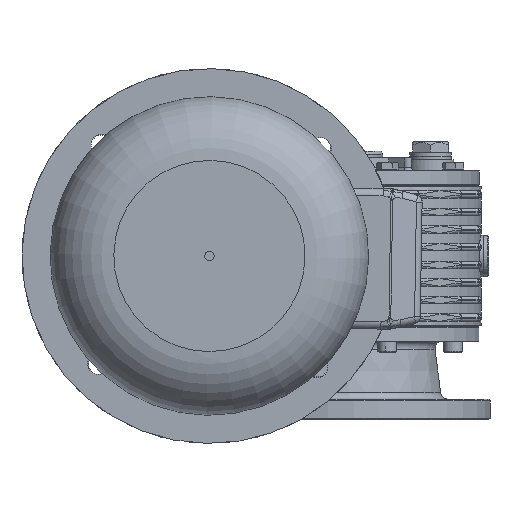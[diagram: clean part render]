
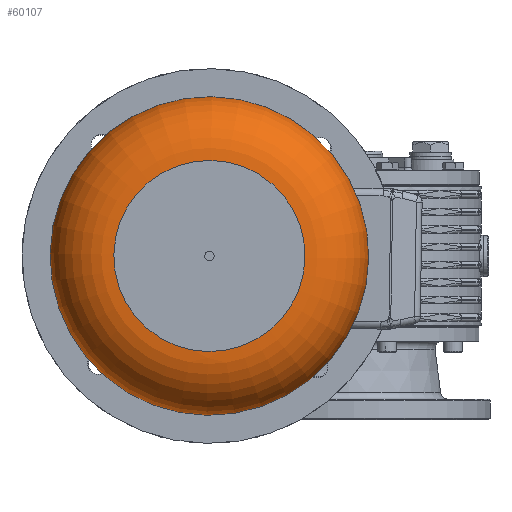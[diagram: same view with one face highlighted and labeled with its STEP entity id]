
A CAD part, left-side view. The second image highlights one B-rep face of the part: STEP entity #60107.
In plain terms, the highlighted toroidal (fillet/blend) face has major radius 51 mm and minor radius 34 mm.
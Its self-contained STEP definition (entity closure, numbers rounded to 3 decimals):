
#60080=CARTESIAN_POINT('',(346.0,0.0,0.0));
#60081=DIRECTION('',(1.0,0.0,0.0));
#60082=DIRECTION('',(0.0,0.0,-1.0));
#60083=AXIS2_PLACEMENT_3D('',#60080,#60081,#60082);
#60084=TOROIDAL_SURFACE('',#60083,51.,34.0);
#60085=CARTESIAN_POINT('',(380.0,51.,0.0));
#60086=VERTEX_POINT('',#60085);
#60087=CARTESIAN_POINT('',(380.0,0.0,0.0));
#60088=DIRECTION('',(1.0,0.0,0.0));
#60089=DIRECTION('',(0.0,1.0,0.0));
#60090=AXIS2_PLACEMENT_3D('',#60087,#60088,#60089);
#60091=CIRCLE('',#60090,51.);
#60092=EDGE_CURVE('',#60086,#60086,#60091,.T.);
#60093=ORIENTED_EDGE('',*,*,#60092,.F.);
#60094=EDGE_LOOP('',(#60093));
#60095=FACE_OUTER_BOUND('',#60094,.T.);
#60096=CARTESIAN_POINT('',(346.0,85.,0.0));
#60097=VERTEX_POINT('',#60096);
#60098=CARTESIAN_POINT('',(346.0,0.0,0.0));
#60099=DIRECTION('',(1.0,0.0,0.0));
#60100=DIRECTION('',(0.0,1.0,0.0));
#60101=AXIS2_PLACEMENT_3D('',#60098,#60099,#60100);
#60102=CIRCLE('',#60101,85.);
#60103=EDGE_CURVE('',#60097,#60097,#60102,.T.);
#60104=ORIENTED_EDGE('',*,*,#60103,.T.);
#60105=EDGE_LOOP('',(#60104));
#60106=FACE_BOUND('',#60105,.T.);
#60107=ADVANCED_FACE('',(#60095,#60106),#60084,.T.);
